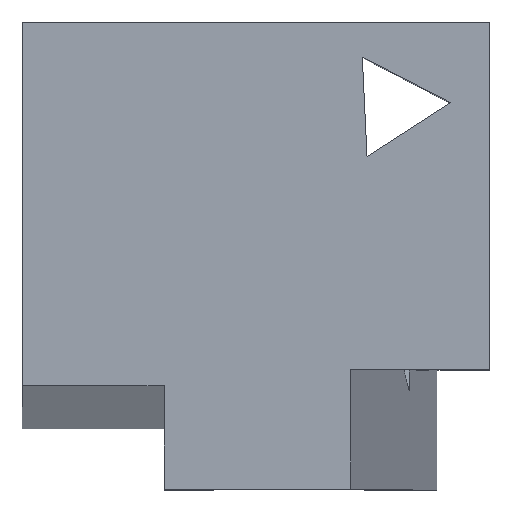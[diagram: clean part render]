
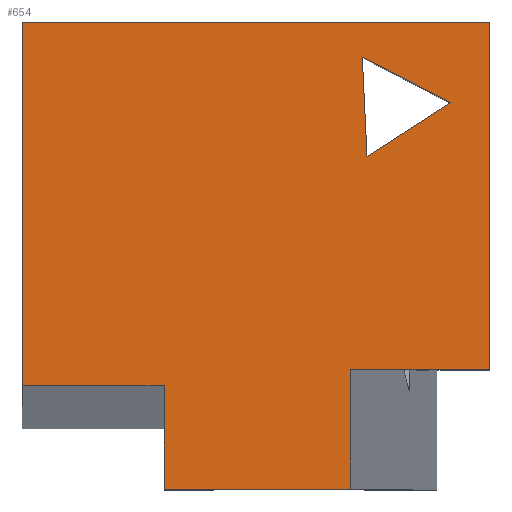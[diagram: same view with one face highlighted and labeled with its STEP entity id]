
A CAD part, top view. The second image highlights one B-rep face of the part: STEP entity #654.
In plain terms, the highlighted planar face has unit normal (0, 0, 1).
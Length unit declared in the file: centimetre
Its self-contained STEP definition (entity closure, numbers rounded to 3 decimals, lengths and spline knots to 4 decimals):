
#1 = EDGE_CURVE ( 'NONE', #569, #765, #428, .T. ) ;
#18 = VECTOR ( 'NONE', #47, 100. ) ;
#20 = CARTESIAN_POINT ( 'NONE',  ( 1000., 1000., 1000. ) ) ;
#34 = CARTESIAN_POINT ( 'NONE',  ( 702.3266, 256.4394, 1000. ) ) ;
#47 = DIRECTION ( 'NONE',  ( -1., 0., 0. ) ) ;
#49 = VERTEX_POINT ( 'NONE', #175 ) ;
#74 = CARTESIAN_POINT ( 'NONE',  ( 0., 0., 1000. ) ) ;
#83 = CARTESIAN_POINT ( 'NONE',  ( 303.248, 0., 1000. ) ) ;
#86 = EDGE_CURVE ( 'NONE', #95, #569, #674, .T. ) ;
#95 = VERTEX_POINT ( 'NONE', #247 ) ;
#108 = VERTEX_POINT ( 'NONE', #34 ) ;
#116 = ORIENTED_EDGE ( 'NONE', *, *, #875, .F. ) ;
#123 = ORIENTED_EDGE ( 'NONE', *, *, #750, .F. ) ;
#124 = CARTESIAN_POINT ( 'NONE',  ( 1000., 1000., 1000. ) ) ;
#129 = CARTESIAN_POINT ( 'NONE',  ( 303.248, 0., 1000. ) ) ;
#133 = VECTOR ( 'NONE', #315, 100. ) ;
#135 = CARTESIAN_POINT ( 'NONE',  ( 0., 0., 1000. ) ) ;
#143 = CARTESIAN_POINT ( 'NONE',  ( 727.5083, 924.9786, 1000. ) ) ;
#144 = PLANE ( 'NONE',  #752 ) ;
#145 = DIRECTION ( 'NONE',  ( 0., -1., 0. ) ) ;
#167 = DIRECTION ( 'NONE',  ( -0.841, -0.541, 0. ) ) ;
#175 = CARTESIAN_POINT ( 'NONE',  ( 303.248, 221.4052, 1000. ) ) ;
#187 = CARTESIAN_POINT ( 'NONE',  ( 303.248, 221.4052, 1000. ) ) ;
#205 = VERTEX_POINT ( 'NONE', #781 ) ;
#222 = ORIENTED_EDGE ( 'NONE', *, *, #819, .T. ) ;
#225 = ORIENTED_EDGE ( 'NONE', *, *, #587, .T. ) ;
#230 = CARTESIAN_POINT ( 'NONE',  ( 0., 1000., 1000. ) ) ;
#235 = DIRECTION ( 'NONE',  ( 0., -1., 0. ) ) ;
#241 = VECTOR ( 'NONE', #235, 100. ) ;
#247 = CARTESIAN_POINT ( 'NONE',  ( 1000., 256.4394, 1000. ) ) ;
#253 = EDGE_CURVE ( 'NONE', #501, #205, #280, .T. ) ;
#257 = VECTOR ( 'NONE', #263, 100. ) ;
#263 = DIRECTION ( 'NONE',  ( -0.048, 0.999, 0. ) ) ;
#273 = ORIENTED_EDGE ( 'NONE', *, *, #773, .T. ) ;
#276 = LINE ( 'NONE', #135, #515 ) ;
#280 = LINE ( 'NONE', #143, #257 ) ;
#295 = CARTESIAN_POINT ( 'NONE',  ( 0., 221.4052, 1000. ) ) ;
#312 = DIRECTION ( 'NONE',  ( 0.889, -0.458, 0. ) ) ;
#315 = DIRECTION ( 'NONE',  ( 0., 1., 0. ) ) ;
#324 = LINE ( 'NONE', #187, #18 ) ;
#350 = CARTESIAN_POINT ( 'NONE',  ( 916.6012, 827.527, 1000. ) ) ;
#354 = VECTOR ( 'NONE', #808, 100. ) ;
#360 = CARTESIAN_POINT ( 'NONE',  ( 702.3266, 256.4394, 1000. ) ) ;
#375 = CARTESIAN_POINT ( 'NONE',  ( 702.3266, 0., 1000. ) ) ;
#397 = CARTESIAN_POINT ( 'NONE',  ( 737.6592, 712.4936, 1000. ) ) ;
#399 = ORIENTED_EDGE ( 'NONE', *, *, #253, .T. ) ;
#409 = ORIENTED_EDGE ( 'NONE', *, *, #739, .T. ) ;
#416 = VECTOR ( 'NONE', #312, 100. ) ;
#428 = LINE ( 'NONE', #635, #688 ) ;
#437 = VECTOR ( 'NONE', #145, 100. ) ;
#488 = FACE_OUTER_BOUND ( 'NONE', #853, .T. ) ;
#489 = EDGE_CURVE ( 'NONE', #49, #691, #324, .T. ) ;
#501 = VERTEX_POINT ( 'NONE', #397 ) ;
#505 = LINE ( 'NONE', #803, #796 ) ;
#508 = DIRECTION ( 'NONE',  ( 0., 0., 1. ) ) ;
#515 = VECTOR ( 'NONE', #895, 100. ) ;
#517 = DIRECTION ( 'NONE',  ( 0., 1., 0. ) ) ;
#523 = ORIENTED_EDGE ( 'NONE', *, *, #489, .F. ) ;
#526 = CARTESIAN_POINT ( 'NONE',  ( 1000., 256.4394, 1000. ) ) ;
#552 = VERTEX_POINT ( 'NONE', #129 ) ;
#569 = VERTEX_POINT ( 'NONE', #124 ) ;
#585 = FACE_BOUND ( 'NONE', #910, .T. ) ;
#587 = EDGE_CURVE ( 'NONE', #552, #770, #276, .T. ) ;
#596 = LINE ( 'NONE', #526, #354 ) ;
#612 = VERTEX_POINT ( 'NONE', #350 ) ;
#635 = CARTESIAN_POINT ( 'NONE',  ( 0., 1000., 1000. ) ) ;
#654 = ADVANCED_FACE ( 'NONE', ( #488, #585 ), #144, .T. ) ;
#655 = LINE ( 'NONE', #360, #437 ) ;
#664 = CARTESIAN_POINT ( 'NONE',  ( 916.6012, 827.527, 1000. ) ) ;
#674 = LINE ( 'NONE', #20, #133 ) ;
#688 = VECTOR ( 'NONE', #715, 100. ) ;
#691 = VERTEX_POINT ( 'NONE', #295 ) ;
#697 = VECTOR ( 'NONE', #517, 100. ) ;
#704 = ORIENTED_EDGE ( 'NONE', *, *, #851, .F. ) ;
#715 = DIRECTION ( 'NONE',  ( -1., 0., 0. ) ) ;
#724 = DIRECTION ( 'NONE',  ( 1., 0., 0. ) ) ;
#725 = LINE ( 'NONE', #83, #697 ) ;
#730 = ORIENTED_EDGE ( 'NONE', *, *, #1, .T. ) ;
#738 = CARTESIAN_POINT ( 'NONE',  ( 0., 1000., 1000. ) ) ;
#739 = EDGE_CURVE ( 'NONE', #612, #501, #505, .T. ) ;
#750 = EDGE_CURVE ( 'NONE', #108, #770, #655, .T. ) ;
#752 = AXIS2_PLACEMENT_3D ( 'NONE', #74, #508, #724 ) ;
#765 = VERTEX_POINT ( 'NONE', #738 ) ;
#770 = VERTEX_POINT ( 'NONE', #375 ) ;
#773 = EDGE_CURVE ( 'NONE', #765, #691, #867, .T. ) ;
#781 = CARTESIAN_POINT ( 'NONE',  ( 727.5083, 924.9786, 1000. ) ) ;
#796 = VECTOR ( 'NONE', #167, 100. ) ;
#803 = CARTESIAN_POINT ( 'NONE',  ( 737.6592, 712.4936, 1000. ) ) ;
#808 = DIRECTION ( 'NONE',  ( -1., 0., 0. ) ) ;
#819 = EDGE_CURVE ( 'NONE', #205, #612, #858, .T. ) ;
#851 = EDGE_CURVE ( 'NONE', #552, #49, #725, .T. ) ;
#853 = EDGE_LOOP ( 'NONE', ( #523, #704, #225, #123, #116, #874, #730, #273 ) ) ;
#858 = LINE ( 'NONE', #664, #416 ) ;
#867 = LINE ( 'NONE', #230, #241 ) ;
#874 = ORIENTED_EDGE ( 'NONE', *, *, #86, .T. ) ;
#875 = EDGE_CURVE ( 'NONE', #95, #108, #596, .T. ) ;
#895 = DIRECTION ( 'NONE',  ( 1., 0., 0. ) ) ;
#910 = EDGE_LOOP ( 'NONE', ( #222, #409, #399 ) ) ;
